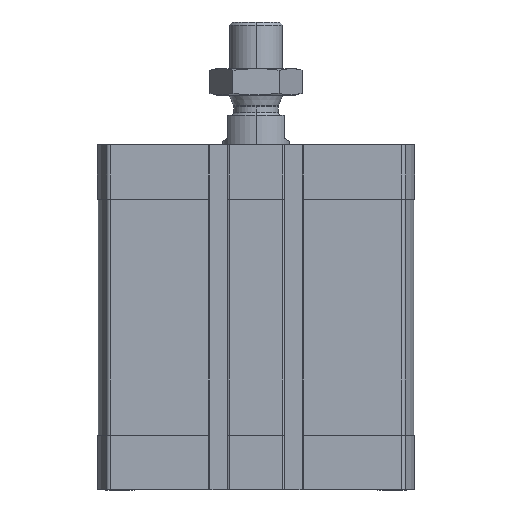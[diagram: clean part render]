
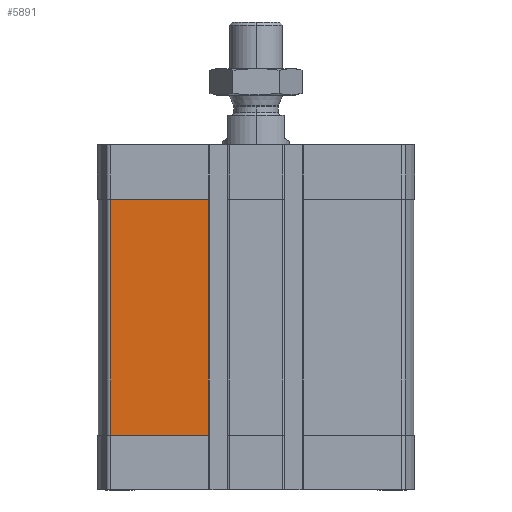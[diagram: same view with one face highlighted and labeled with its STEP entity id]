
A CAD part, left-side view. The second image highlights one B-rep face of the part: STEP entity #5891.
In plain terms, the highlighted planar face has unit normal (-1, 0, 0).
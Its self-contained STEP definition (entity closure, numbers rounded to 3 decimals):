
#599 = CARTESIAN_POINT ( 'NONE',  ( -47.5, 43.743, -87.5 ) ) ;
#605 = AXIS2_PLACEMENT_3D ( 'NONE', #11456, #11478, #11500 ) ;
#1137 = VECTOR ( 'NONE', #8561, 1000. ) ;
#1315 = LINE ( 'NONE', #8584, #1137 ) ;
#1629 = FACE_OUTER_BOUND ( 'NONE', #3407, .T. ) ;
#1667 = DIRECTION ( 'NONE',  ( 0., -1., 0. ) ) ;
#1713 = VERTEX_POINT ( 'NONE', #10229 ) ;
#1888 = VECTOR ( 'NONE', #10169, 1000. ) ;
#2620 = CARTESIAN_POINT ( 'NONE',  ( -47.5, 43.743, -87.5 ) ) ;
#3407 = EDGE_LOOP ( 'NONE', ( #12021, #6848, #5962, #15622 ) ) ;
#4584 = EDGE_CURVE ( 'NONE', #1713, #13650, #1315, .T. ) ;
#4623 = VERTEX_POINT ( 'NONE', #8169 ) ;
#5344 = EDGE_CURVE ( 'NONE', #15325, #4623, #9582, .T. ) ;
#5845 = EDGE_CURVE ( 'NONE', #13650, #15325, #9594, .T. ) ;
#5891 = ADVANCED_FACE ( 'NONE', ( #1629 ), #11434, .T. ) ;
#5962 = ORIENTED_EDGE ( 'NONE', *, *, #4584, .T. ) ;
#6848 = ORIENTED_EDGE ( 'NONE', *, *, #11810, .T. ) ;
#6852 = CARTESIAN_POINT ( 'NONE',  ( -47.5, 14.3, -87.5 ) ) ;
#7072 = DIRECTION ( 'NONE',  ( 0., 0., 1. ) ) ;
#7456 = VECTOR ( 'NONE', #7072, 1000. ) ;
#8169 = CARTESIAN_POINT ( 'NONE',  ( -47.5, 14.3, -87.5 ) ) ;
#8561 = DIRECTION ( 'NONE',  ( 0., 1., 0. ) ) ;
#8584 = CARTESIAN_POINT ( 'NONE',  ( -47.5, 0., -16.5 ) ) ;
#9582 = LINE ( 'NONE', #599, #10193 ) ;
#9594 = LINE ( 'NONE', #10108, #1888 ) ;
#10108 = CARTESIAN_POINT ( 'NONE',  ( -47.5, 43.743, -87.5 ) ) ;
#10169 = DIRECTION ( 'NONE',  ( 0., 0., -1. ) ) ;
#10193 = VECTOR ( 'NONE', #1667, 1000. ) ;
#10229 = CARTESIAN_POINT ( 'NONE',  ( -47.5, 14.3, -16.5 ) ) ;
#11434 = PLANE ( 'NONE',  #605 ) ;
#11456 = CARTESIAN_POINT ( 'NONE',  ( -47.5, 43.743, -87.5 ) ) ;
#11478 = DIRECTION ( 'NONE',  ( -1., 0., 0. ) ) ;
#11500 = DIRECTION ( 'NONE',  ( 0., 0., 1. ) ) ;
#11810 = EDGE_CURVE ( 'NONE', #4623, #1713, #13726, .T. ) ;
#12021 = ORIENTED_EDGE ( 'NONE', *, *, #5344, .T. ) ;
#13650 = VERTEX_POINT ( 'NONE', #13731 ) ;
#13726 = LINE ( 'NONE', #6852, #7456 ) ;
#13731 = CARTESIAN_POINT ( 'NONE',  ( -47.5, 43.743, -16.5 ) ) ;
#15325 = VERTEX_POINT ( 'NONE', #2620 ) ;
#15622 = ORIENTED_EDGE ( 'NONE', *, *, #5845, .T. ) ;
